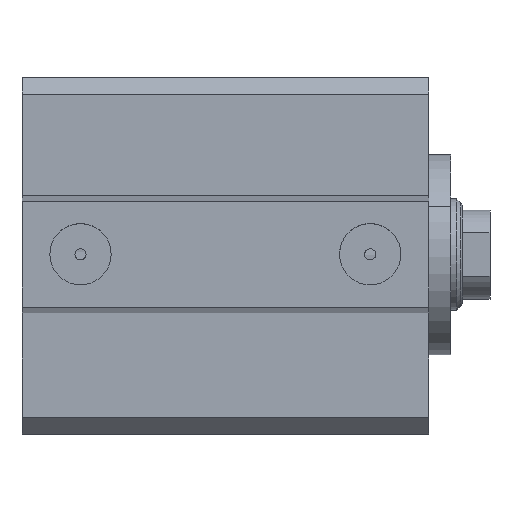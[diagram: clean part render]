
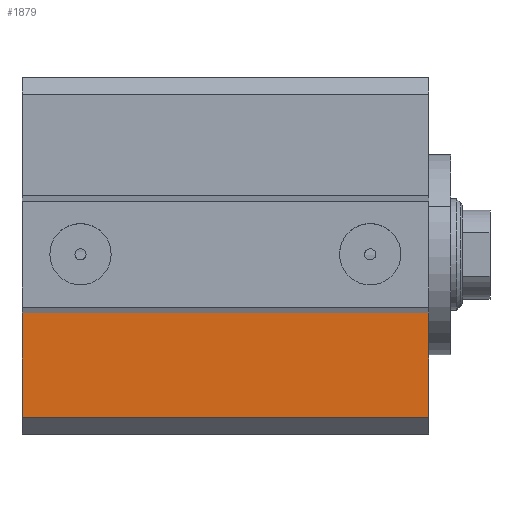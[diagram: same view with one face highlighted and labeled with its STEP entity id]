
A CAD part, top view. The second image highlights one B-rep face of the part: STEP entity #1879.
In plain terms, the highlighted planar face has unit normal (0, 0, 1).
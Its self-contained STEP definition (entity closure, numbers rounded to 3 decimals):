
#996=CARTESIAN_POINT('Vertex',(0.,-29.25,31.75)) ;
#999=CARTESIAN_POINT('Line Origine',(0.,-19.875,31.75)) ;
#1003=CARTESIAN_POINT('Vertex',(0.,-10.5,31.75)) ;
#1217=CARTESIAN_POINT('Vertex',(73.,-10.5,31.75)) ;
#1220=CARTESIAN_POINT('Line Origine',(73.,-19.875,31.75)) ;
#1224=CARTESIAN_POINT('Vertex',(73.,-29.25,31.75)) ;
#1764=CARTESIAN_POINT('Axis2P3D Location',(0.,10.5,31.75)) ;
#1856=CARTESIAN_POINT('Line Origine',(36.5,-10.5,31.75)) ;
#1868=CARTESIAN_POINT('Line Origine',(36.5,-29.25,31.75)) ;
#1000=DIRECTION('Vector Direction',(0.,1.,0.)) ;
#1221=DIRECTION('Vector Direction',(0.,1.,0.)) ;
#1765=DIRECTION('Axis2P3D Direction',(0.,0.,-1.)) ;
#1766=DIRECTION('Axis2P3D XDirection',(0.,1.,0.)) ;
#1857=DIRECTION('Vector Direction',(1.,0.,0.)) ;
#1869=DIRECTION('Vector Direction',(1.,0.,0.)) ;
#1767=AXIS2_PLACEMENT_3D('Plane Axis2P3D',#1764,#1765,#1766) ;
#1874=ORIENTED_EDGE('',*,*,#1860,.F.) ;
#1875=ORIENTED_EDGE('',*,*,#1005,.T.) ;
#1876=ORIENTED_EDGE('',*,*,#1872,.T.) ;
#1877=ORIENTED_EDGE('',*,*,#1226,.F.) ;
#1001=VECTOR('Line Direction',#1000,1.) ;
#1222=VECTOR('Line Direction',#1221,1.) ;
#1858=VECTOR('Line Direction',#1857,1.) ;
#1870=VECTOR('Line Direction',#1869,1.) ;
#1879=ADVANCED_FACE('PartBody',(#1878),#1768,.F.) ;
#1005=EDGE_CURVE('',#1004,#997,#1002,.F.) ;
#1226=EDGE_CURVE('',#1218,#1225,#1223,.F.) ;
#1860=EDGE_CURVE('',#1004,#1218,#1859,.T.) ;
#1872=EDGE_CURVE('',#997,#1225,#1871,.T.) ;
#1873=EDGE_LOOP('',(#1874,#1875,#1876,#1877)) ;
#1878=FACE_OUTER_BOUND('',#1873,.T.) ;
#1002=LINE('Line',#999,#1001) ;
#1223=LINE('Line',#1220,#1222) ;
#1859=LINE('Line',#1856,#1858) ;
#1871=LINE('Line',#1868,#1870) ;
#1768=PLANE('',#1767) ;
#997=VERTEX_POINT('',#996) ;
#1004=VERTEX_POINT('',#1003) ;
#1218=VERTEX_POINT('',#1217) ;
#1225=VERTEX_POINT('',#1224) ;
